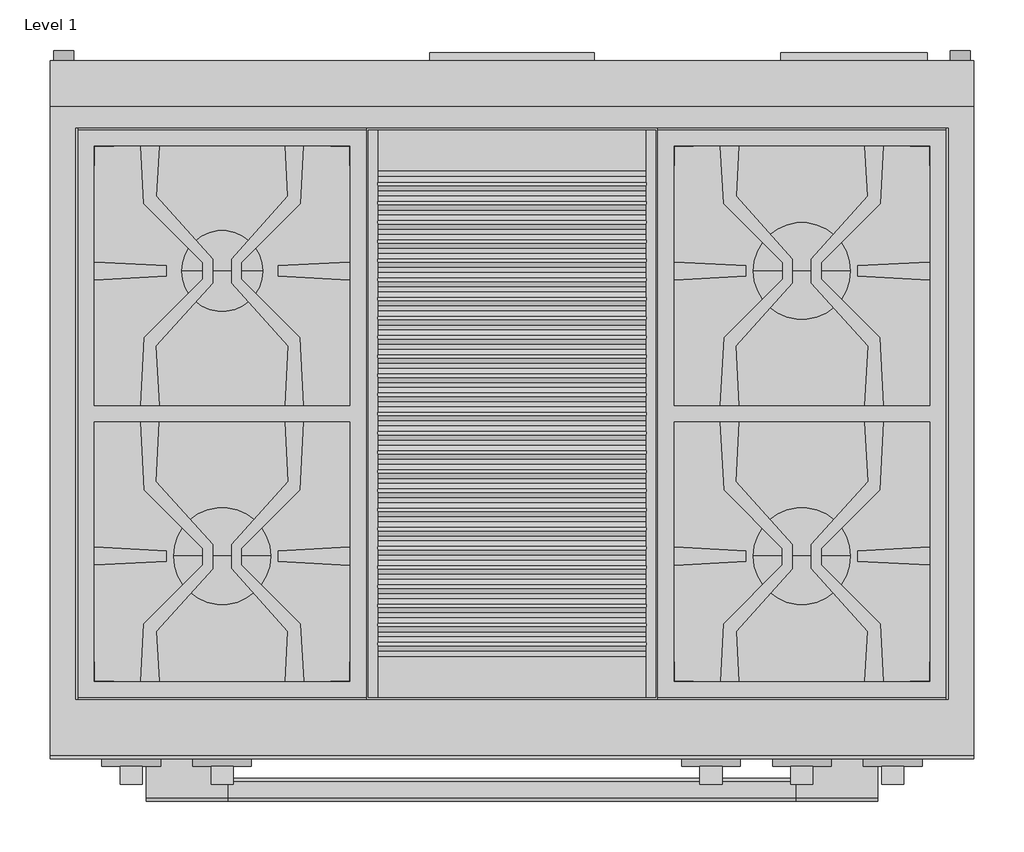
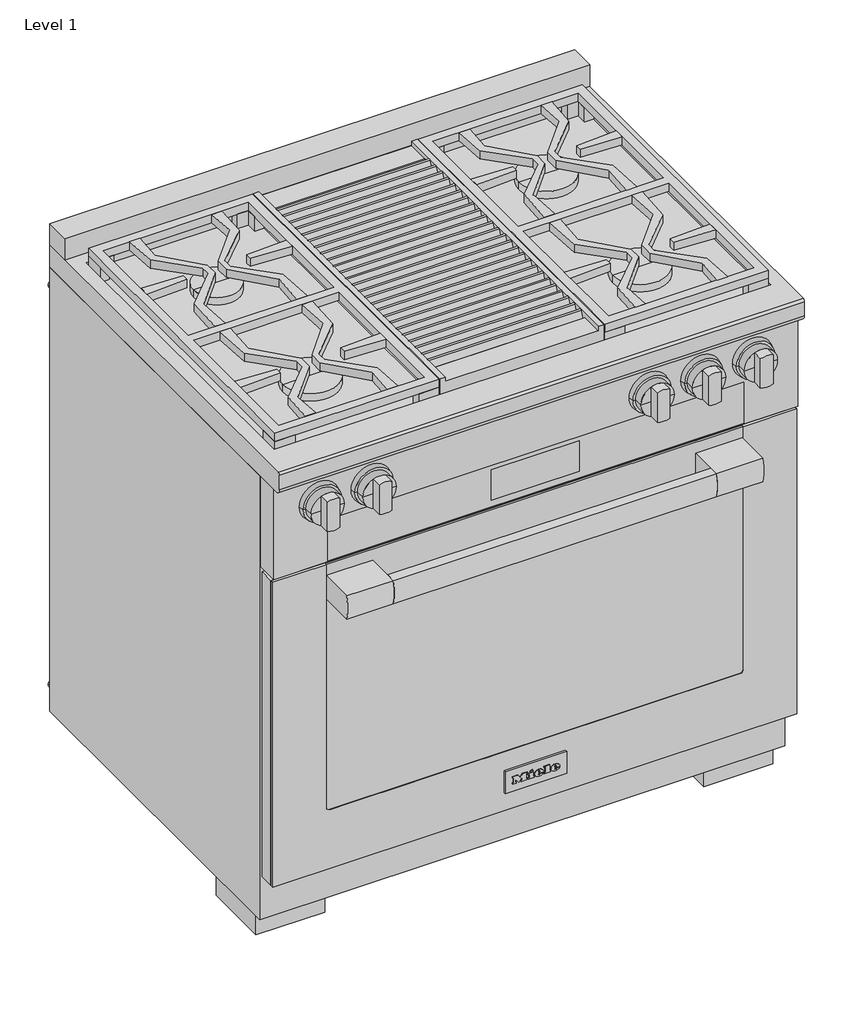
# One storey: 1 proxy.
"""IFC4 building model written with IfcOpenShell, lengths in millimetres."""

from ifc_helpers import new_model, si_unit, origin, place, context, project, spatial, transform, mapped, element, save
from components import specialty_equipment_97d47d35, specialty_equipment_0d907981

model = new_model("IFC4")

# Units and contexts
model_context = context("Model", 3, world=origin())
ifc_project = project(units=[si_unit("LENGTHUNIT", "METRE", prefix="MILLI")], contexts=[model_context])

# Site, building, storey
site = spatial("IfcSite", under=ifc_project)
building = spatial("IfcBuilding", under=site)
storey = spatial("IfcBuildingStorey", under=building, Name="Level 1", Elevation=0.0)

# Proxy
placement = place(None, origin())
specialty_equipment_shape = specialty_equipment_97d47d35(model_context)
specialty_equipment_2_shape = specialty_equipment_0d907981(model_context)
element("IfcBuildingElementProxy", 1, Name="11791600_USA_HR1935-3G_EDST-CLST : 25193581_USA_11791600_HR1935-3G_EDST-CLST", ObjectType="11791600_USA_HR1935-3G_EDST-CLST : 25193581_USA_11791600_HR1935-3G_EDST-CLST", at=placement, inside=storey, context=model_context, shape_type="MappedRepresentation", body=[
    mapped(specialty_equipment_shape, transform((0.0, 0.0, 0.0), x_axis=(1.0, 0.0, 0.0), y_axis=(0.0, 1.0, 0.0), z_axis=(0.0, 0.0, 1.0))),
    mapped(specialty_equipment_2_shape, transform((0.0, 0.0, 0.0), x_axis=(1.0, 0.0, 0.0), y_axis=(0.0, 1.0, 0.0), z_axis=(0.0, 0.0, 1.0))),
])

save(model, "model.ifc")
